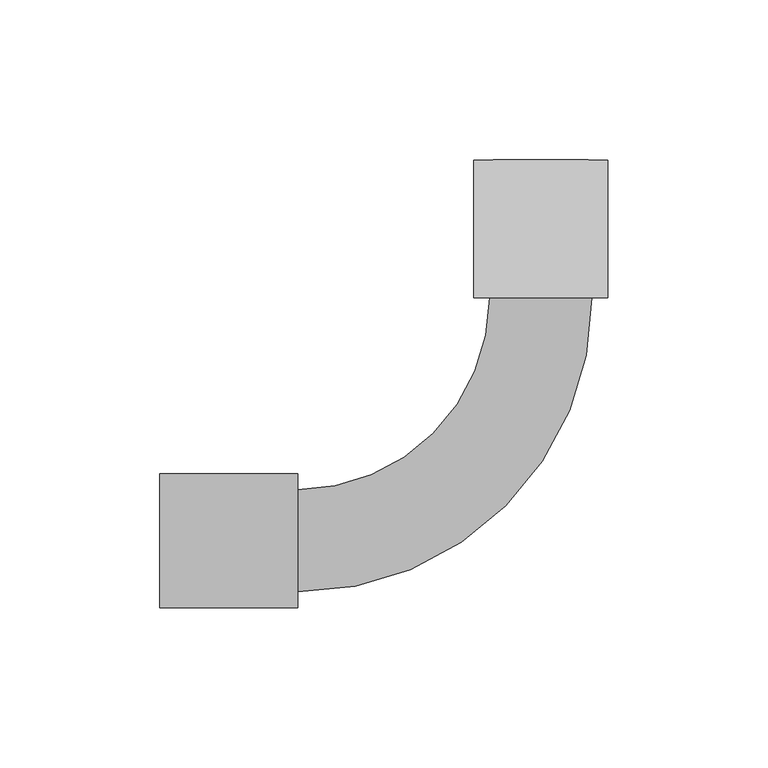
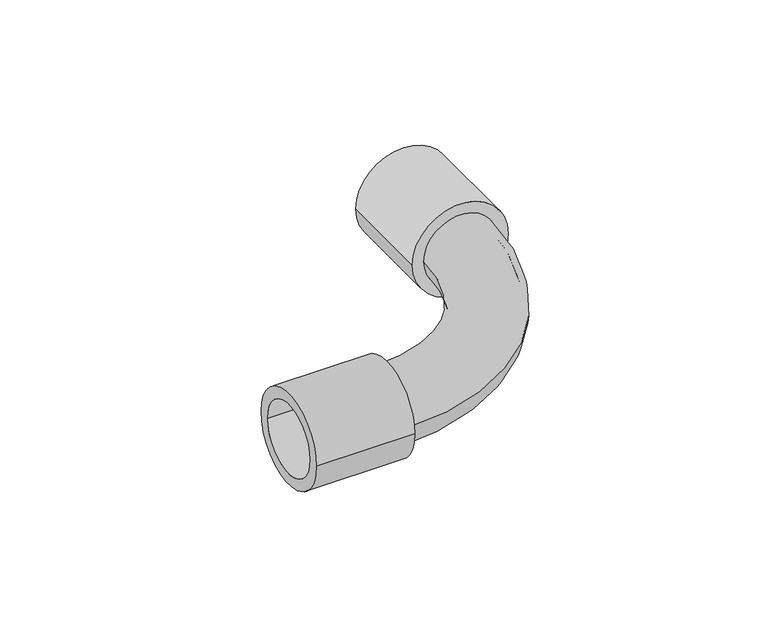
"""IFC4 building model written with IfcOpenShell, lengths in millimetres: cable carrier fitting geometry."""

from ifc_helpers import new_model, si_unit, point, frame, origin, origin_2d, place, context, project, spatial, circle_curve, ellipse_curve, trimmed, segment, composite_curve, outline, extrude, source, transform, mapped, element, save
from ifc_brep_helpers import plane_surface, revolved_surface, advanced_brep


def cable_carrier_fitting_cf0889e4(model_context):
    return source(origin(), model_context, "Body", "SolidModel", [
        advanced_brep(
        [(-76.0, -16.0, 0.0), (-76.0, 16.0, 0.0), (-76.0, -13.5, 0.0), (-76.0, 13.5, 0.0), (16.0, 76.0, 0.0), (-16.0, 76.0, 0.0), (13.5, 76.0, 0.0), (-13.5, 76.0, 0.0)],
        [
            (0, 1, circle_curve(frame((-76.0, 0.0, 0.0), z_axis=(-1.0, 0.0, 0.0), x_axis=(0.0, 1.0, 0.0)), 16.0)),
            (1, 0, circle_curve(frame((-76.0, 0.0, 0.0), z_axis=(-1.0, 0.0, 0.0), x_axis=(0.0, 1.0, 0.0)), 16.0)),
            (2, 3, circle_curve(frame((-76.0, 0.0, 0.0), z_axis=(1.0, 0.0, 0.0), x_axis=(0.0, 1.0, 0.0)), 13.5)),
            (3, 2, circle_curve(frame((-76.0, 0.0, 0.0), z_axis=(1.0, 0.0, 0.0), x_axis=(0.0, 1.0, 0.0)), 13.5)),
            (4, 5, circle_curve(frame((0.0, 76.0, 0.0), z_axis=(0.0, 1.0, 0.0), x_axis=(-1.0, 0.0, 0.0)), 16.0)),
            (5, 4, circle_curve(frame((0.0, 76.0, 0.0), z_axis=(0.0, 1.0, 0.0), x_axis=(-1.0, 0.0, 0.0)), 16.0)),
            (6, 7, circle_curve(frame((0.0, 76.0, 0.0), z_axis=(0.0, -1.0, 0.0), x_axis=(-1.0, 0.0, 0.0)), 13.5)),
            (7, 6, circle_curve(frame((0.0, 76.0, 0.0), z_axis=(0.0, -1.0, 0.0), x_axis=(-1.0, 0.0, 0.0)), 13.5)),
            (5, 1, circle_curve(frame((-76.0, 76.0, 0.0), z_axis=(0.0, 0.0, -1.0), x_axis=(0.0, -1.0, 0.0)), 60.0)),
            (0, 4, circle_curve(frame((-76.0, 76.0, 0.0), z_axis=(0.0, 0.0, 1.0), x_axis=(0.0, -1.0, 0.0)), 92.0)),
            (7, 3, circle_curve(frame((-76.0, 76.0, 0.0), z_axis=(0.0, 0.0, -1.0), x_axis=(0.0, -1.0, 0.0)), 62.5)),
            (2, 6, circle_curve(frame((-76.0, 76.0, 0.0), z_axis=(0.0, 0.0, 1.0), x_axis=(0.0, -1.0, 0.0)), 89.5)),
        ],
        [
            plane_surface(frame((-76.0, 0.0, 0.0), z_axis=(-1.0, 0.0, 0.0), x_axis=(0.0, 0.0, 1.0))),
            plane_surface(frame((0.0, 76.0, 0.0), z_axis=(0.0, 1.0, 0.0), x_axis=(0.0, 0.0, 1.0))),
            revolved_surface(trimmed(ellipse_curve(frame((-76.0, 0.0, 0.0), z_axis=(-1.0, 0.0, 0.0), x_axis=(0.0, 1.0, 0.0)), 16.0, 16.0), [point((-76.0, -16.0, 0.0))], [point((-76.0, 16.0, 0.0))], True, "CARTESIAN"), (-76.0, 76.0, 0.0), (0.0, 0.0, 1.0)),
            revolved_surface(trimmed(ellipse_curve(frame((-76.0, 0.0, 0.0), z_axis=(-1.0, 0.0, 0.0), x_axis=(0.0, 1.0, 0.0)), 16.0, 16.0), [point((-76.0, 16.0, 0.0))], [point((-76.0, -16.0, 0.0))], True, "CARTESIAN"), (-76.0, 76.0, 0.0), (0.0, 0.0, 1.0)),
            revolved_surface(trimmed(ellipse_curve(frame((-76.0, 0.0, 0.0), z_axis=(1.0, 0.0, 0.0), x_axis=(0.0, 1.0, 0.0)), 13.5, 13.5), [point((-76.0, -13.5, 0.0))], [point((-76.0, 13.5, 0.0))], True, "CARTESIAN"), (-76.0, 76.0, 0.0), (0.0, 0.0, 1.0)),
            revolved_surface(trimmed(ellipse_curve(frame((-76.0, 0.0, 0.0), z_axis=(1.0, 0.0, 0.0), x_axis=(0.0, 1.0, 0.0)), 13.5, 13.5), [point((-76.0, 13.5, 0.0))], [point((-76.0, -13.5, 0.0))], True, "CARTESIAN"), (-76.0, 76.0, 0.0), (0.0, 0.0, 1.0)),
        ],
        [
            (0, [[1, 2], [3, 4]]),
            (1, [[5, 6], [7, 8]]),
            (2, [[9, -1, 10, -6]]),
            (3, [[-10, -2, -9, -5]]),
            (4, [[11, -3, 12, -8]]),
            (5, [[-12, -4, -11, -7]]),
        ],
    ),
        extrude(outline(composite_curve([segment(trimmed(circle_curve(origin_2d(), 21.0), [point((0.0, 21.0))], [point((0.0, -21.0))], False, "CARTESIAN"), True, "CONTINUOUS"), segment(trimmed(circle_curve(origin_2d(), 21.0), [point((0.0, -21.0))], [point((0.0, 21.0))], False, "CARTESIAN"), True, "CONTINUOUS")], self_intersect=False), holes=[composite_curve([segment(trimmed(circle_curve(origin_2d(), 16.0), [point((0.0, 16.0))], [point((0.0, -16.0))], True, "CARTESIAN"), True, "CONTINUOUS"), segment(trimmed(circle_curve(origin_2d(), 16.0), [point((0.0, -16.0))], [point((0.0, 16.0))], True, "CARTESIAN"), True, "CONTINUOUS")], self_intersect=False)]), frame((0.0, 76.0, 0.0), z_axis=(0.0, 1.0, 0.0), x_axis=(0.0, 0.0, 1.0)), (0.0, 0.0, 1.0), 43.0),
        extrude(outline(composite_curve([segment(trimmed(circle_curve(origin_2d(), 21.0), [point((-21.0, 0.0))], [point((21.0, 0.0))], False, "CARTESIAN"), True, "CONTINUOUS"), segment(trimmed(circle_curve(origin_2d(), 21.0), [point((21.0, 0.0))], [point((-21.0, 0.0))], False, "CARTESIAN"), True, "CONTINUOUS")], self_intersect=False), holes=[composite_curve([segment(trimmed(circle_curve(origin_2d(), 16.0), [point((-16.0, 0.0))], [point((16.0, 0.0))], True, "CARTESIAN"), True, "CONTINUOUS"), segment(trimmed(circle_curve(origin_2d(), 16.0), [point((16.0, 0.0))], [point((-16.0, 0.0))], True, "CARTESIAN"), True, "CONTINUOUS")], self_intersect=False)]), frame((-119.0, 0.0, 0.0), z_axis=(1.0, 0.0, 0.0), x_axis=(0.0, 1.0, 0.0)), (0.0, 0.0, 1.0), 43.0),
    ])


if __name__ == "__main__":
    model = new_model("IFC4")
    model_context = context("Model", 3, world=origin())
    ifc_project = project(units=[si_unit("LENGTHUNIT", "METRE", prefix="MILLI")], contexts=[model_context])
    site = spatial("IfcSite", under=ifc_project)
    building = spatial("IfcBuilding", under=site)
    placement = place(None, origin())
    cable_carrier_fitting_shape = cable_carrier_fitting_cf0889e4(model_context)
    element("IfcCableCarrierFitting", 1, at=placement, inside=building, context=model_context, shape_type="MappedRepresentation", body=[
        mapped(cable_carrier_fitting_shape, transform((0.0, 0.0, 0.0), x_axis=(1.0, 0.0, 0.0), y_axis=(0.0, 1.0, 0.0), z_axis=(0.0, 0.0, 1.0))),
    ])
    save(model, "model.ifc")
